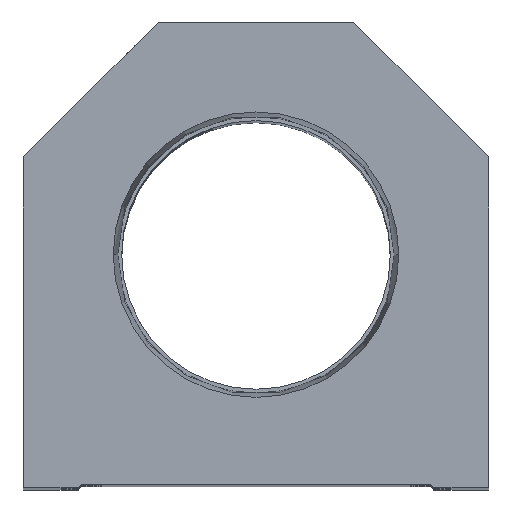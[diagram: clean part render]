
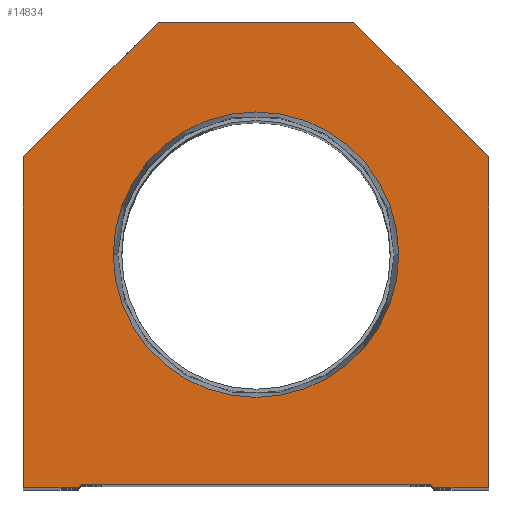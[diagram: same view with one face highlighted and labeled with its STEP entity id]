
A CAD part, top view. The second image highlights one B-rep face of the part: STEP entity #14834.
In plain terms, the highlighted planar face has unit normal (0, 0, 1).
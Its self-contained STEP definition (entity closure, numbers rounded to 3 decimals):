
#606 = ORIENTED_EDGE ( 'NONE', *, *, #13317, .T. ) ;
#644 = EDGE_CURVE ( 'NONE', #15402, #10925, #15858, .T. ) ;
#1149 = EDGE_LOOP ( 'NONE', ( #5089, #6740, #606, #3924, #11879, #3538, #18003, #18220, #8591, #3282 ) ) ;
#1634 = CARTESIAN_POINT ( 'NONE',  ( -29.1, 0., 0. ) ) ;
#1635 = CARTESIAN_POINT ( 'NONE',  ( -38.1, 0., 0. ) ) ;
#1844 = ORIENTED_EDGE ( 'NONE', *, *, #3433, .F. ) ;
#1989 = DIRECTION ( 'NONE',  ( 1., 0., 0. ) ) ;
#2177 = EDGE_CURVE ( 'NONE', #10037, #18782, #13423, .T. ) ;
#2299 = CIRCLE ( 'NONE', #12946, 23.374 ) ;
#2438 = AXIS2_PLACEMENT_3D ( 'NONE', #16030, #6854, #17103 ) ;
#3004 = VERTEX_POINT ( 'NONE', #16091 ) ;
#3282 = ORIENTED_EDGE ( 'NONE', *, *, #4869, .T. ) ;
#3433 = EDGE_CURVE ( 'NONE', #18782, #10037, #2299, .T. ) ;
#3538 = ORIENTED_EDGE ( 'NONE', *, *, #18033, .T. ) ;
#3717 = ORIENTED_EDGE ( 'NONE', *, *, #2177, .F. ) ;
#3924 = ORIENTED_EDGE ( 'NONE', *, *, #17528, .T. ) ;
#4049 = LINE ( 'NONE', #11187, #15450 ) ;
#4083 = DIRECTION ( 'NONE',  ( 1., 0., 0. ) ) ;
#4210 = VECTOR ( 'NONE', #6291, 1000. ) ;
#4680 = DIRECTION ( 'NONE',  ( 0., -1., 0. ) ) ;
#4789 = DIRECTION ( 'NONE',  ( -0.707, 0.707, 0. ) ) ;
#4869 = EDGE_CURVE ( 'NONE', #16012, #8544, #16157, .T. ) ;
#5089 = ORIENTED_EDGE ( 'NONE', *, *, #13895, .T. ) ;
#5442 = CARTESIAN_POINT ( 'NONE',  ( 0., 38.1, 0. ) ) ;
#5444 = VECTOR ( 'NONE', #1989, 1000. ) ;
#5902 = CARTESIAN_POINT ( 'NONE',  ( 28.6, 0., 0. ) ) ;
#5952 = EDGE_CURVE ( 'NONE', #6431, #6296, #4049, .T. ) ;
#6291 = DIRECTION ( 'NONE',  ( 0., 1., 0. ) ) ;
#6296 = VERTEX_POINT ( 'NONE', #17609 ) ;
#6429 = CARTESIAN_POINT ( 'NONE',  ( 28.6, 0.5, 0. ) ) ;
#6431 = VERTEX_POINT ( 'NONE', #15175 ) ;
#6555 = EDGE_CURVE ( 'NONE', #6296, #16012, #11043, .T. ) ;
#6740 = ORIENTED_EDGE ( 'NONE', *, *, #644, .T. ) ;
#6854 = DIRECTION ( 'NONE',  ( 0., 0., 1. ) ) ;
#7030 = DIRECTION ( 'NONE',  ( 1., 0., 0. ) ) ;
#7558 = CARTESIAN_POINT ( 'NONE',  ( 38.1, 54.1, 0. ) ) ;
#7656 = LINE ( 'NONE', #7558, #17436 ) ;
#7830 = EDGE_CURVE ( 'NONE', #3004, #8897, #13048, .T. ) ;
#7975 = VECTOR ( 'NONE', #11323, 1000. ) ;
#8107 = DIRECTION ( 'NONE',  ( 0., 0., 1. ) ) ;
#8304 = CARTESIAN_POINT ( 'NONE',  ( 38.1, 54.1, 0. ) ) ;
#8544 = VERTEX_POINT ( 'NONE', #17997 ) ;
#8591 = ORIENTED_EDGE ( 'NONE', *, *, #6555, .T. ) ;
#8897 = VERTEX_POINT ( 'NONE', #15915 ) ;
#9667 = DIRECTION ( 'NONE',  ( -1., 0., 0. ) ) ;
#9711 = VECTOR ( 'NONE', #17767, 1000. ) ;
#10037 = VERTEX_POINT ( 'NONE', #15628 ) ;
#10061 = PLANE ( 'NONE',  #2438 ) ;
#10134 = EDGE_CURVE ( 'NONE', #17921, #6431, #7656, .T. ) ;
#10153 = FACE_BOUND ( 'NONE', #16266, .T. ) ;
#10354 = CARTESIAN_POINT ( 'NONE',  ( 38.1, 0., 0. ) ) ;
#10382 = DIRECTION ( 'NONE',  ( 0.707, -0.707, 0. ) ) ;
#10925 = VERTEX_POINT ( 'NONE', #15630 ) ;
#11027 = LINE ( 'NONE', #16522, #5444 ) ;
#11043 = LINE ( 'NONE', #15367, #17633 ) ;
#11187 = CARTESIAN_POINT ( 'NONE',  ( 16., 76.2, 0. ) ) ;
#11299 = CARTESIAN_POINT ( 'NONE',  ( -28.6, 0., 0. ) ) ;
#11323 = DIRECTION ( 'NONE',  ( 0.707, 0.707, 0. ) ) ;
#11395 = FACE_OUTER_BOUND ( 'NONE', #1149, .T. ) ;
#11475 = LINE ( 'NONE', #11299, #16737 ) ;
#11879 = ORIENTED_EDGE ( 'NONE', *, *, #7830, .T. ) ;
#12254 = CARTESIAN_POINT ( 'NONE',  ( -38.1, 54.1, 0. ) ) ;
#12391 = DIRECTION ( 'NONE',  ( 0., 0., 1. ) ) ;
#12735 = VECTOR ( 'NONE', #10382, 1000. ) ;
#12866 = CARTESIAN_POINT ( 'NONE',  ( 0., 38.1, 0. ) ) ;
#12946 = AXIS2_PLACEMENT_3D ( 'NONE', #12866, #8107, #4083 ) ;
#12988 = LINE ( 'NONE', #16070, #12735 ) ;
#13048 = LINE ( 'NONE', #5902, #9711 ) ;
#13273 = VECTOR ( 'NONE', #4680, 1000. ) ;
#13317 = EDGE_CURVE ( 'NONE', #10925, #15072, #11027, .T. ) ;
#13423 = CIRCLE ( 'NONE', #17426, 23.374 ) ;
#13895 = EDGE_CURVE ( 'NONE', #8544, #15402, #11475, .T. ) ;
#14834 = ADVANCED_FACE ( 'NONE', ( #10153, #11395 ), #10061, .T. ) ;
#14868 = LINE ( 'NONE', #10354, #4210 ) ;
#15072 = VERTEX_POINT ( 'NONE', #6429 ) ;
#15175 = CARTESIAN_POINT ( 'NONE',  ( 16., 76.2, 0. ) ) ;
#15367 = CARTESIAN_POINT ( 'NONE',  ( -38.1, 54.1, 0. ) ) ;
#15402 = VERTEX_POINT ( 'NONE', #1634 ) ;
#15450 = VECTOR ( 'NONE', #9667, 1000. ) ;
#15628 = CARTESIAN_POINT ( 'NONE',  ( -23.374, 38.1, 0. ) ) ;
#15630 = CARTESIAN_POINT ( 'NONE',  ( -28.6, 0.5, 0. ) ) ;
#15858 = LINE ( 'NONE', #17387, #7975 ) ;
#15915 = CARTESIAN_POINT ( 'NONE',  ( 38.1, 0., 0. ) ) ;
#16012 = VERTEX_POINT ( 'NONE', #12254 ) ;
#16030 = CARTESIAN_POINT ( 'NONE',  ( 0., 0., 0. ) ) ;
#16070 = CARTESIAN_POINT ( 'NONE',  ( 14.55, 14.55, 0. ) ) ;
#16091 = CARTESIAN_POINT ( 'NONE',  ( 29.1, 0., 0. ) ) ;
#16157 = LINE ( 'NONE', #1635, #13273 ) ;
#16266 = EDGE_LOOP ( 'NONE', ( #1844, #3717 ) ) ;
#16522 = CARTESIAN_POINT ( 'NONE',  ( -28.6, 0.5, 0. ) ) ;
#16713 = CARTESIAN_POINT ( 'NONE',  ( 23.374, 38.1, 0. ) ) ;
#16737 = VECTOR ( 'NONE', #7030, 1000. ) ;
#16836 = DIRECTION ( 'NONE',  ( 1., 0., 0. ) ) ;
#17103 = DIRECTION ( 'NONE',  ( 1., 0., 0. ) ) ;
#17208 = DIRECTION ( 'NONE',  ( -0.707, -0.707, 0. ) ) ;
#17387 = CARTESIAN_POINT ( 'NONE',  ( -14.55, 14.55, 0. ) ) ;
#17426 = AXIS2_PLACEMENT_3D ( 'NONE', #5442, #12391, #16836 ) ;
#17436 = VECTOR ( 'NONE', #4789, 1000. ) ;
#17528 = EDGE_CURVE ( 'NONE', #15072, #3004, #12988, .T. ) ;
#17609 = CARTESIAN_POINT ( 'NONE',  ( -16., 76.2, 0. ) ) ;
#17633 = VECTOR ( 'NONE', #17208, 1000. ) ;
#17767 = DIRECTION ( 'NONE',  ( 1., 0., 0. ) ) ;
#17921 = VERTEX_POINT ( 'NONE', #8304 ) ;
#17997 = CARTESIAN_POINT ( 'NONE',  ( -38.1, 0., 0. ) ) ;
#18003 = ORIENTED_EDGE ( 'NONE', *, *, #10134, .T. ) ;
#18033 = EDGE_CURVE ( 'NONE', #8897, #17921, #14868, .T. ) ;
#18220 = ORIENTED_EDGE ( 'NONE', *, *, #5952, .T. ) ;
#18782 = VERTEX_POINT ( 'NONE', #16713 ) ;
